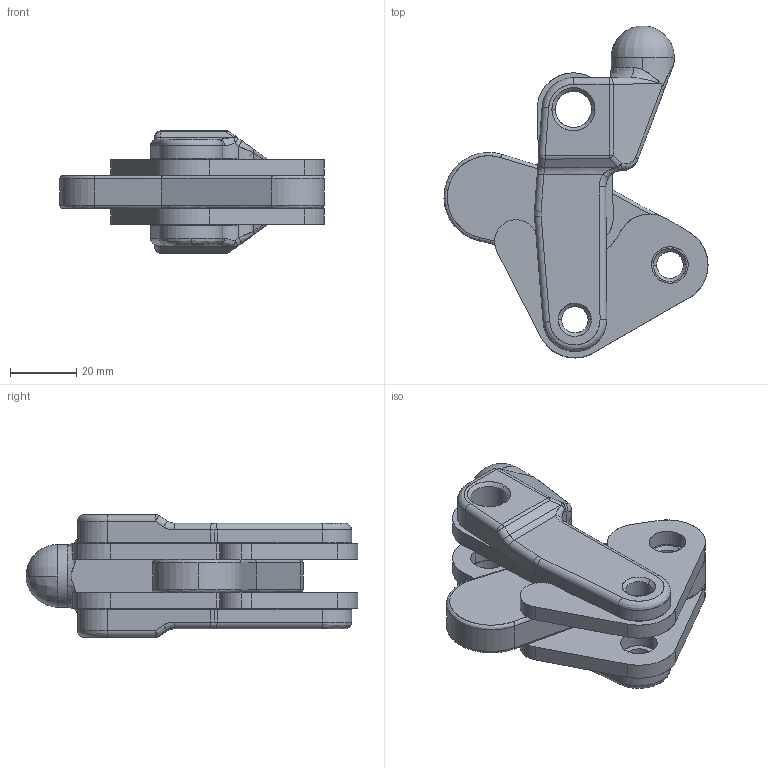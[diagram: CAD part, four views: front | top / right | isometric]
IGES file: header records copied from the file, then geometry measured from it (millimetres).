
Start section: SolidWorks IGES file using analytic representation for surfaces
Global section: file name: D:\GH Files\GH-SW-FILES\GH7\70305,310,315\GH-70305.IGS; native system: SolidWorks 2006 by SolidWorks Corporation; preprocessor: SolidWorks 2006 by SolidWorks Corporation; author: Administrator; date: 060705.130255; units: millimetre
Bounding box: 79.66 x 100.13 x 37 mm (x, y, z)
Surface area: 31974 mm2 (no closed solid volume)
Topology: 0 solids, 0 shells, 233 faces, 2771 edges, 2766 vertices
Faces by surface type: revolution 128, bspline 105
